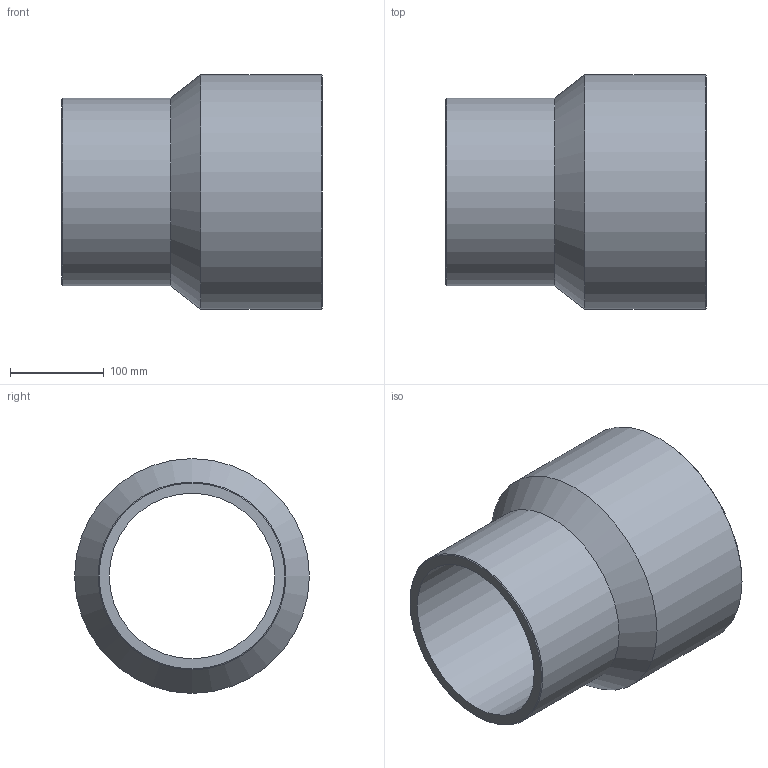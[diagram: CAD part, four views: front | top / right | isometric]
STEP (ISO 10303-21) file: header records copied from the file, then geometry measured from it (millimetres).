
FILE_DESCRIPTION(/* description */ ('Unknown'),/* implementation_level */ '2;1');
FILE_NAME(/* name */ 'RP250200B',/* time_stamp */ '2021-09-17T12:19:18+02:00',/* author */ ('Unknown'),/* organization */ ('Unknown'),/* preprocessor_version */ 'ST-DEVELOPER v16.7',/* originating_system */ 'Solid Edge',/* authorisation */ 'Unknown');
FILE_SCHEMA (('AUTOMOTIVE_DESIGN {1 0 10303 214 3 1 1}'));
Length unit declared in the file: millimetre
Products named in the file (1): RP250200B
Bounding box: 277 x 250 x 250 mm (x, y, z)
Volume: 2668492.7 mm3; surface area: 396561.1 mm2
Topology: 1 solids, 1 shells, 10 faces, 19 edges, 11 vertices
Faces by surface type: cylinder 4, cone 4, plane 2
Full cylindrical faces by diameter (mm): 176.2 x1, 200 x1, 220.4 x1, 250 x1
Entity records: 238 total; most frequent: DIRECTION 42, CARTESIAN_POINT 31, AXIS2_PLACEMENT_3D 21, ORIENTED_EDGE 20, EDGE_LOOP 20, FACE_BOUND 20, EDGE_CURVE 10, VERTEX_POINT 10
